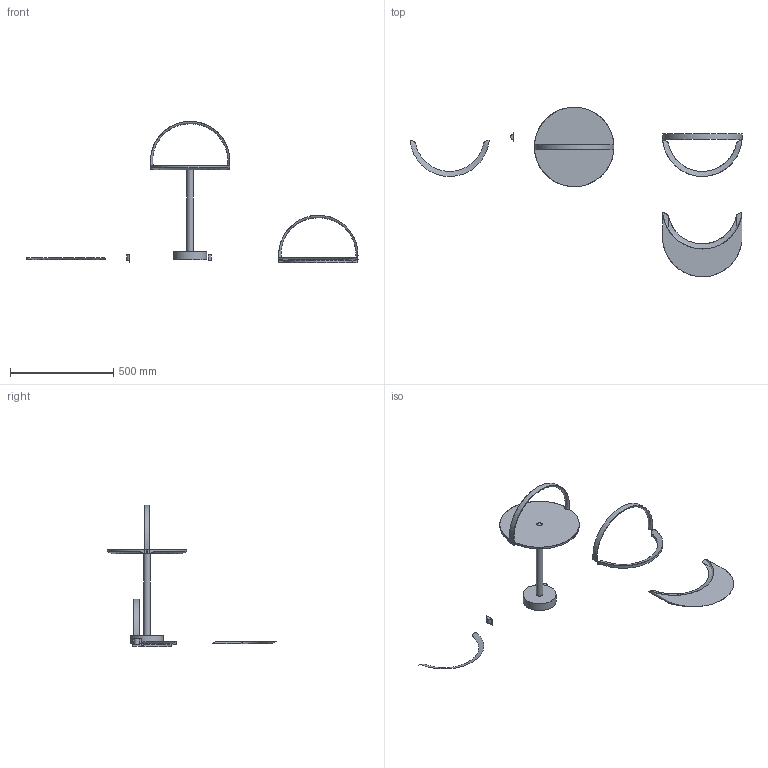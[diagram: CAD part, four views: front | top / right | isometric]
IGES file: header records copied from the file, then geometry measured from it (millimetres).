
Global section: file name: C:\Users\Timo Mikkonen\Desktop\Nikari 3d. tiedostot rfa\COFFEE TABLES\iges\February coffee table.igs; native system: Rhinoceros ( Sep  8 2025 ); preprocessor: Trout Lake IGES 012 Sep  8 2025; date: 250915.111917; units: millimetre
Bounding box: 1607.95 x 820.74 x 684.94 mm (x, y, z)
Surface area: 627600.1 mm2 (no closed solid volume)
Topology: 0 solids, 0 shells, 88 faces, 2556 edges, 2596 vertices
Faces by surface type: bspline 88
